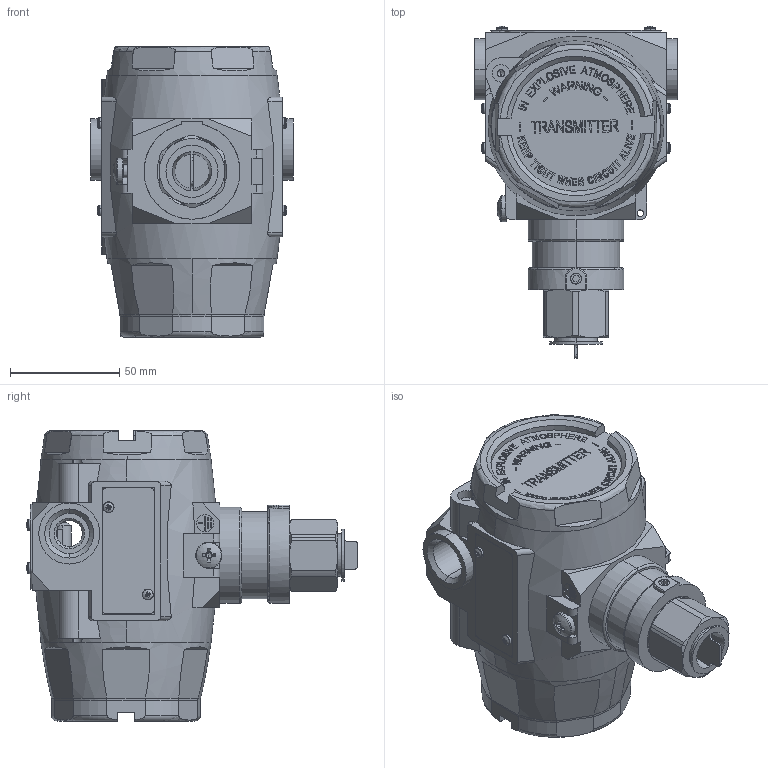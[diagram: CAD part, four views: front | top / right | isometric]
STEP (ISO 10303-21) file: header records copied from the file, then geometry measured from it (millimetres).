
FILE_DESCRIPTION((''),'2;1');
FILE_NAME('T_MODEL_WITH_LCD','2022-12-14T10:33:41',('ebeloglazova'),(''),'CREO PARAMETRIC BY PTC INC, 2021184','CREO PARAMETRIC BY PTC INC, 2021184','');
FILE_SCHEMA(('CONFIG_CONTROL_DESIGN'));
Products named in the file (1): T_MODEL_WITH_LCD
Bounding box: 93 x 152.21 x 133 mm (x, y, z)
Volume: 411312.9 mm3; surface area: 123721.6 mm2
Topology: 2 solids, 2 shells, 2268 faces, 6013 edges, 3850 vertices
Faces by surface type: plane 1494, cylinder 309, cone 195, extrusion 192, torus 55, sphere 14, bspline 7, revolution 2
Entity records: 79686 total; most frequent: CARTESIAN_POINT 23761, ORIENTED_EDGE 11942, DIRECTION 10986, EDGE_CURVE 5971, VECTOR 3948, VERTEX_POINT 3850, LINE 3756, AXIS2_PLACEMENT_3D 3518
